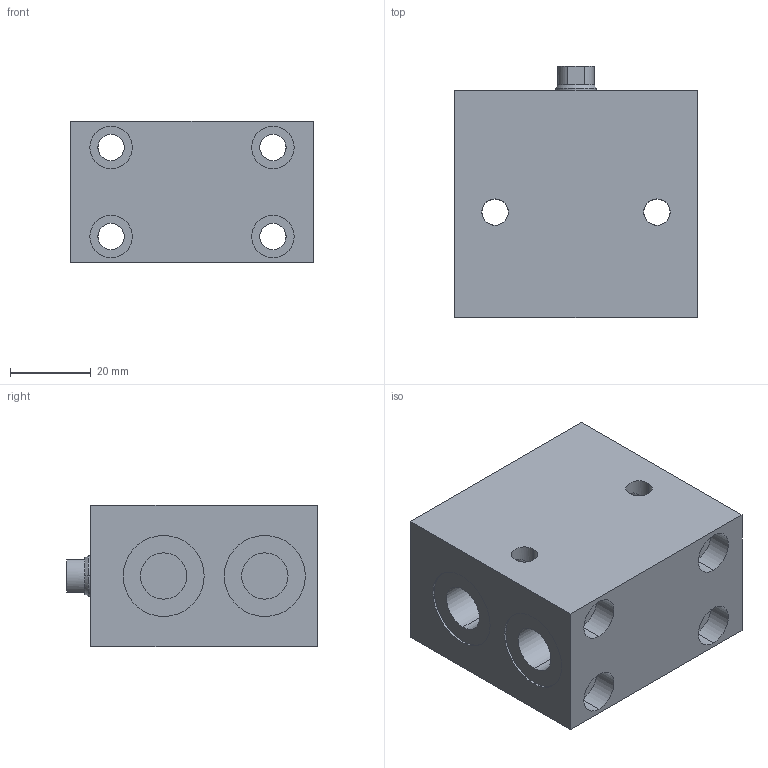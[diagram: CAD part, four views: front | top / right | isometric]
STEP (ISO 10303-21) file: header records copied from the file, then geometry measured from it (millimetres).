
FILE_DESCRIPTION (( 'STEP AP203' ), '1' );
FILE_NAME ('GERMA_Blockzylinder_600-016-016.STEP', '2015-07-16T12:20:33', ( '' ), ( '' ), 'SwSTEP 2.0', 'SolidWorks 2015', '' );
FILE_SCHEMA (( 'CONFIG_CONTROL_DESIGN' ));
Length unit declared in the file: millimetre
Products named in the file (3): GERMA_Blockzylinder_600-016-016; Kolben 60x-016_Kolben DU.16-Hub16-IG; GH-600-016_GH-600-016-016
Assembly tree (2 placements, depth 2):
  GERMA_Blockzylinder_600-016-016
    GH-600-016_GH-600-016-016
    Kolben 60x-016_Kolben DU.16-Hub16-IG
Bounding box: 60 x 62 x 35 mm (x, y, z)
Volume: 100755.6 mm3; surface area: 26179.1 mm2
Topology: 2 solids, 2 shells, 115 faces, 264 edges, 160 vertices
Faces by surface type: cylinder 71, plane 30, cone 14
Entity records: 3552 total; most frequent: CARTESIAN_POINT 634, DIRECTION 589, ORIENTED_EDGE 516, EDGE_CURVE 258, AXIS2_PLACEMENT_3D 243, VERTEX_POINT 160, EDGE_LOOP 148, CIRCLE 123
